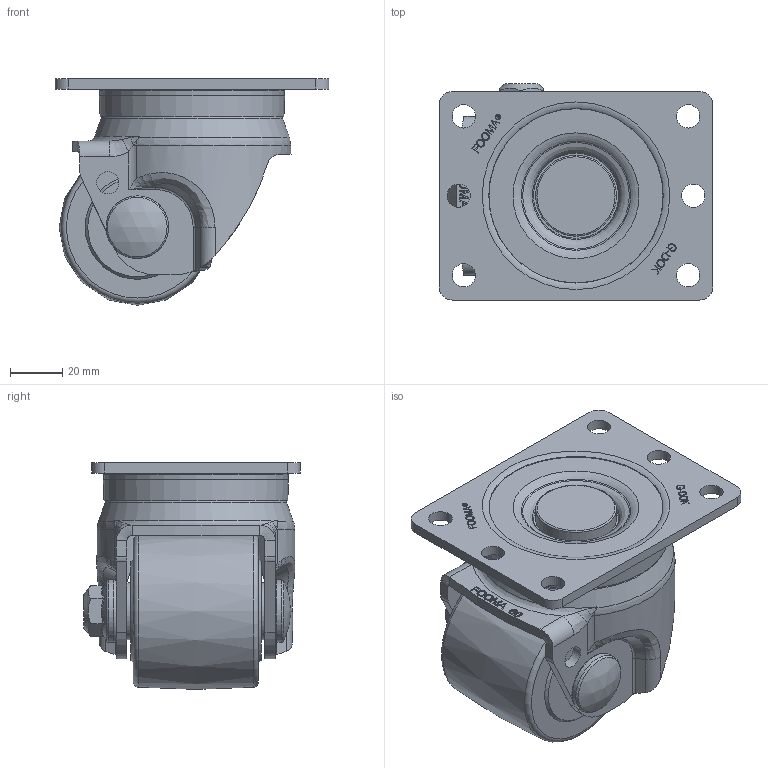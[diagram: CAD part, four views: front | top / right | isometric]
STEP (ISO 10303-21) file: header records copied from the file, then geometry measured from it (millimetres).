
FILE_DESCRIPTION(/* description */ (''),/* implementation_level */ '2;1');
FILE_NAME(/* name */ 'E:\홈피용도면\홈페이지용3d\JS-SEREIS\신규-OFFSET21\JS-60-ASF-O21.stp',/* time_stamp */ '2016-03-29T16:14:35+09:00',/* author */ ('장용하'),/* organization */ (''),/* preprocessor_version */ 'ST-DEVELOPER v15.6',/* originating_system */ 'Autodesk Inventor 2015',/* authorisation */ '');
FILE_SCHEMA (('AUTOMOTIVE_DESIGN { 1 0 10303 214 3 1 1 }'));
Length unit declared in the file: millimetre
Products named in the file (1): JS-60-ASF-O21
Bounding box: 105 x 83 x 87 mm (x, y, z)
Volume: 269823.3 mm3; surface area: 57348.7 mm2
Topology: 1 solids, 1 shells, 1361 faces, 3857 edges, 2540 vertices
Faces by surface type: plane 1215, bspline 51, cylinder 50, torus 27, cone 17, sphere 1
Full cylindrical faces by diameter (mm): 1.76 x1, 2 x1, 8.5 x2, 9 x6, 22 x2, 24 x2, 28 x1, 31 x1, 61 x1
Entity records: 44958 total; most frequent: CARTESIAN_POINT 10130, ORIENTED_EDGE 7576, DIRECTION 6480, EDGE_CURVE 3788, LINE 3488, VECTOR 3488, VERTEX_POINT 2524, AXIS2_PLACEMENT_3D 1496
